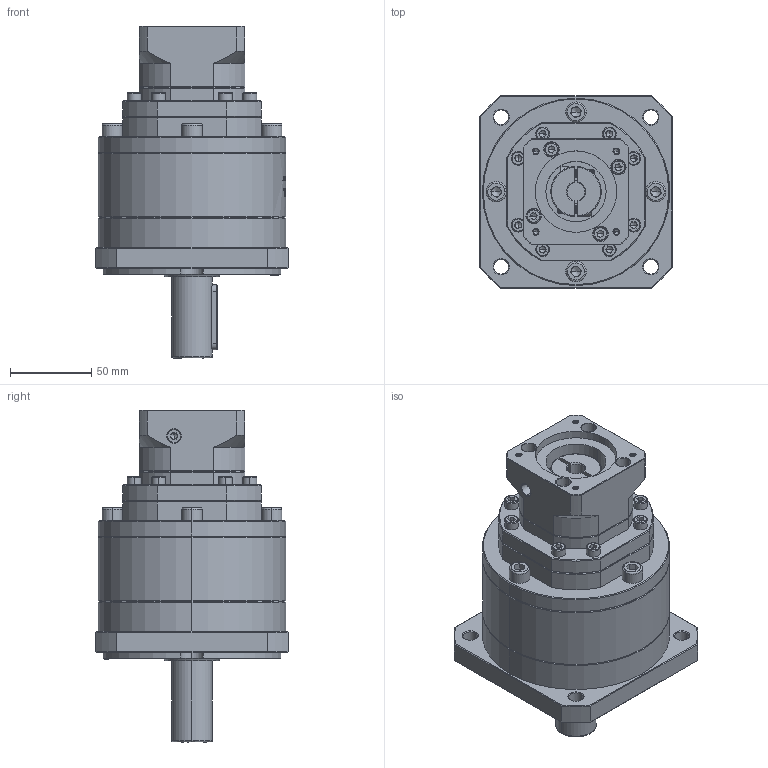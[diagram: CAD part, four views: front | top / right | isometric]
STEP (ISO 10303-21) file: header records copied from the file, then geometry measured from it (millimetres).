
FILE_DESCRIPTION (( 'STEP AP214' ), '1' );
FILE_NAME ('ZF120A-D25-L3-11-50-70-M4.step', '2023-03-07T15:54:15', ( '' ), ( 'Microsoft' ), 'SwSTEP 2.0', 'SolidWorks 2016', '' );
FILE_SCHEMA (( 'AUTOMOTIVE_DESIGN' ));
Length unit declared in the file: millimetre
Products named in the file (1): ZF120A-D25-L3-11-50-70-M4
Bounding box: 118 x 118 x 204 mm (x, y, z)
Volume: 1210363.7 mm3; surface area: 115768.6 mm2
Topology: 7 solids, 7 shells, 2071 faces, 5447 edges, 3479 vertices
Faces by surface type: plane 1002, cylinder 411, bspline 337, cone 299, torus 22
Entity records: 106737 total; most frequent: CARTESIAN_POINT 36584, ORIENTED_EDGE 10786, DIRECTION 8537, EDGE_CURVE 5393, VERTEX_POINT 3479, LINE 2961, VECTOR 2961, AXIS2_PLACEMENT_3D 2788
